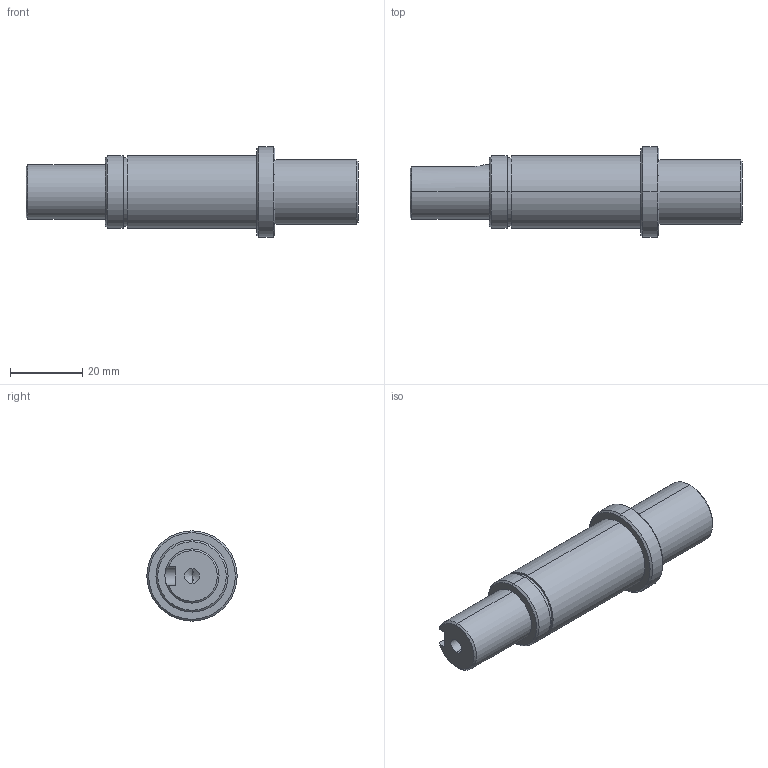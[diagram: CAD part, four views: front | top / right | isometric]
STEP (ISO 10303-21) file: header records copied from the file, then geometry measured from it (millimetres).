
FILE_DESCRIPTION (( 'STEP AP214' ), '1' );
FILE_NAME ('AGZ061.06.01_V1主动轴.STEP', '2021-09-24T01:34:09', ( '微软中国' ), ( 'Microsoft' ), 'SwSTEP 2.0', 'SolidWorks 2017', '' );
FILE_SCHEMA (( 'AUTOMOTIVE_DESIGN' ));
Length unit declared in the file: millimetre
Products named in the file (1): AGZ061.06.01_V1翋雄粣
Bounding box: 92 x 25 x 25 mm (x, y, z)
Volume: 24837.5 mm3; surface area: 6595.7 mm2
Topology: 1 solids, 1 shells, 38 faces, 81 edges, 49 vertices
Faces by surface type: cylinder 15, cone 13, plane 10
Entity records: 1103 total; most frequent: CARTESIAN_POINT 204, DIRECTION 195, ORIENTED_EDGE 158, AXIS2_PLACEMENT_3D 80, EDGE_CURVE 79, VERTEX_POINT 49, EDGE_LOOP 44, CIRCLE 41
